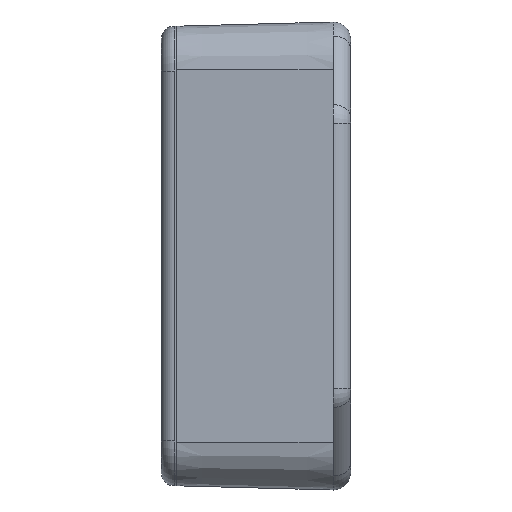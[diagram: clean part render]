
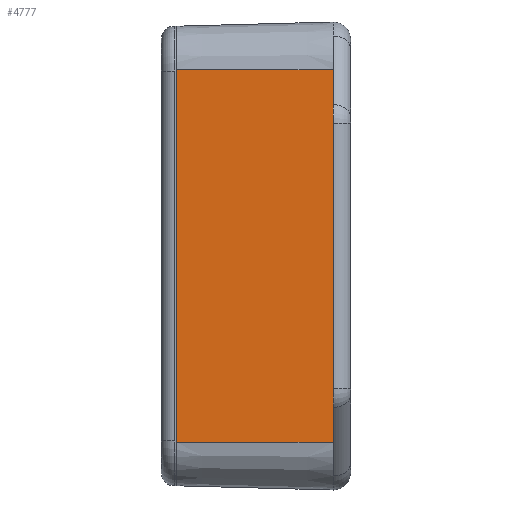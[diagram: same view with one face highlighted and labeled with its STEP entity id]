
A CAD part, left-side view. The second image highlights one B-rep face of the part: STEP entity #4777.
In plain terms, the highlighted planar face has unit normal (-1, 0.027, 0).
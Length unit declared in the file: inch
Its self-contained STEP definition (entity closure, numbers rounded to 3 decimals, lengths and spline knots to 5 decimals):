
#4769 = ORIENTED_EDGE ( 'NONE', *, *, #4770, .F. ) ;
#4770 = EDGE_CURVE ( 'NONE', #4929, #4785, #7963, .T. ) ;
#4772 = EDGE_CURVE ( 'NONE', #4785, #4809, #7967, .T. ) ;
#4776 = ORIENTED_EDGE ( 'NONE', *, *, #4772, .F. ) ;
#4777 = ADVANCED_FACE ( 'NONE', ( #7951 ), #7966, .T. ) ;
#4785 = VERTEX_POINT ( 'NONE', #7940 ) ;
#4801 = EDGE_LOOP ( 'NONE', ( #4776, #4769, #4826, #4814 ) ) ;
#4804 = EDGE_CURVE ( 'NONE', #4926, #4809, #8009, .T. ) ;
#4809 = VERTEX_POINT ( 'NONE', #7837 ) ;
#4814 = ORIENTED_EDGE ( 'NONE', *, *, #4804, .T. ) ;
#4826 = ORIENTED_EDGE ( 'NONE', *, *, #4878, .T. ) ;
#4878 = EDGE_CURVE ( 'NONE', #4929, #4926, #8122, .T. ) ;
#4926 = VERTEX_POINT ( 'NONE', #8131 ) ;
#4929 = VERTEX_POINT ( 'NONE', #8239 ) ;
#7800 = DIRECTION ( 'NONE',  ( -0.027, -1., 0. ) ) ;
#7817 = DIRECTION ( 'NONE',  ( 0.027, 1., 0. ) ) ;
#7818 = VECTOR ( 'NONE', #7817, 39.37008 ) ;
#7837 = CARTESIAN_POINT ( 'NONE',  ( -2.2725, 0., 1.3345 ) ) ;
#7939 = DIRECTION ( 'NONE',  ( -1., 0.027, 0. ) ) ;
#7940 = CARTESIAN_POINT ( 'NONE',  ( -2.2725, 0., -1.3345 ) ) ;
#7951 = FACE_OUTER_BOUND ( 'NONE', #4801, .T. ) ;
#7953 = CARTESIAN_POINT ( 'NONE',  ( -2.2725, 0., -1.3345 ) ) ;
#7955 = AXIS2_PLACEMENT_3D ( 'NONE', #7953, #7939, #7800 ) ;
#7956 = DIRECTION ( 'NONE',  ( 0., 0., 1. ) ) ;
#7957 = VECTOR ( 'NONE', #7956, 39.37008 ) ;
#7958 = CARTESIAN_POINT ( 'NONE',  ( -2.2725, 0., -1.3345 ) ) ;
#7960 = DIRECTION ( 'NONE',  ( 0.027, 1., 0. ) ) ;
#7961 = VECTOR ( 'NONE', #7960, 39.37008 ) ;
#7962 = CARTESIAN_POINT ( 'NONE',  ( -2.2725, 0., -1.3345 ) ) ;
#7963 = LINE ( 'NONE', #7962, #7961 ) ;
#7966 = PLANE ( 'NONE',  #7955 ) ;
#7967 = LINE ( 'NONE', #7958, #7957 ) ;
#8008 = CARTESIAN_POINT ( 'NONE',  ( -2.2725, 0., 1.3345 ) ) ;
#8009 = LINE ( 'NONE', #8008, #7818 ) ;
#8119 = DIRECTION ( 'NONE',  ( 0., 0., 1. ) ) ;
#8120 = VECTOR ( 'NONE', #8119, 39.37008 ) ;
#8121 = CARTESIAN_POINT ( 'NONE',  ( -2.30255, -1.125, 1.3345 ) ) ;
#8122 = LINE ( 'NONE', #8121, #8120 ) ;
#8131 = CARTESIAN_POINT ( 'NONE',  ( -2.30255, -1.125, 1.3345 ) ) ;
#8239 = CARTESIAN_POINT ( 'NONE',  ( -2.30255, -1.125, -1.3345 ) ) ;
